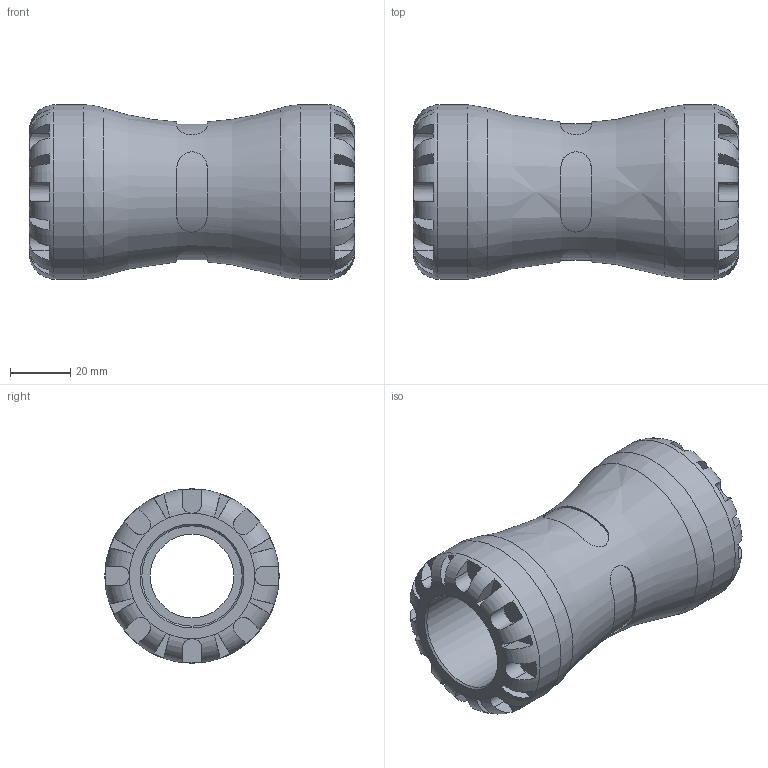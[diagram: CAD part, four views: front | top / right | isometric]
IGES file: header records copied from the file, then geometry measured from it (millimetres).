
Global section: file name: 1001A6010.ipt; native system: Autodesk Inventor 2019; preprocessor: unknown; author: KIM; date: 20210902.120215; units: inch
Bounding box: 107.95 x 57.91 x 57.91 mm (x, y, z)
Volume: 137646 mm3; surface area: 34858.5 mm2
Topology: 1 solids, 1 shells, 164 faces, 427 edges, 270 vertices
Faces by surface type: plane 108, revolution 34, cylinder 22
Full cylindrical faces by diameter (mm): 57.912 x2
